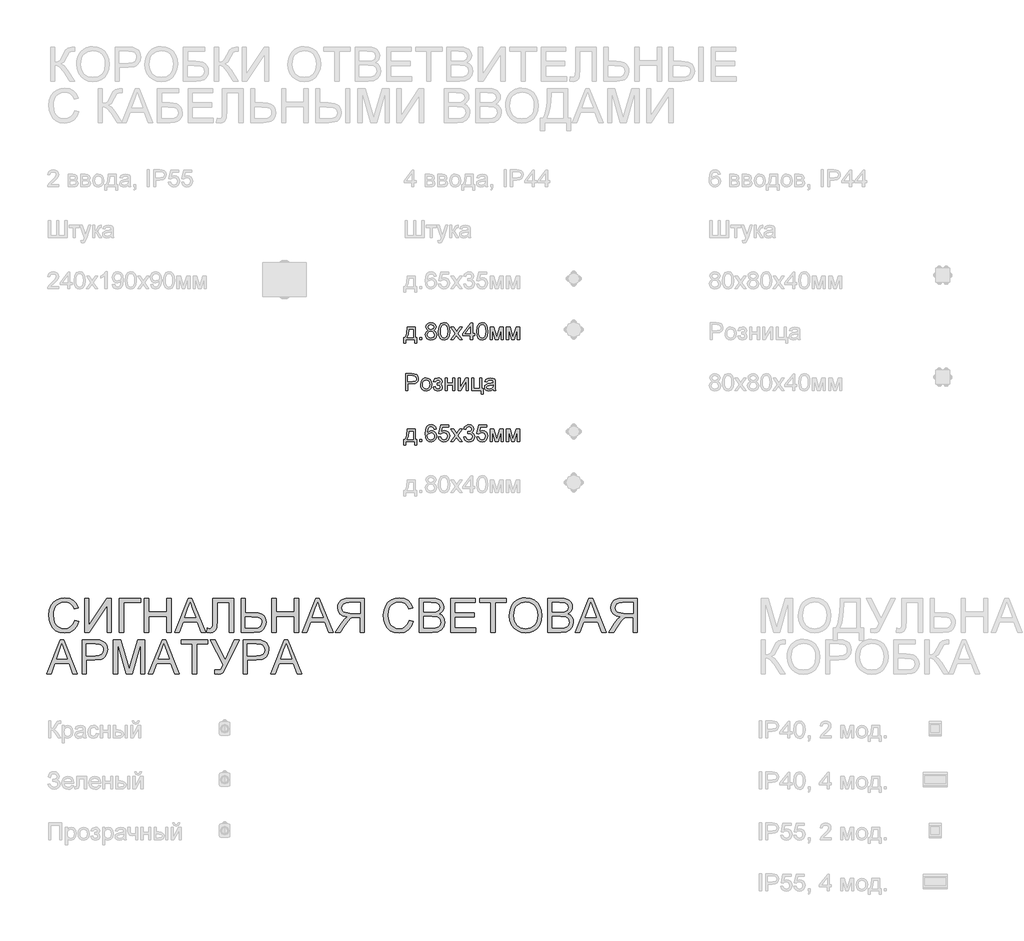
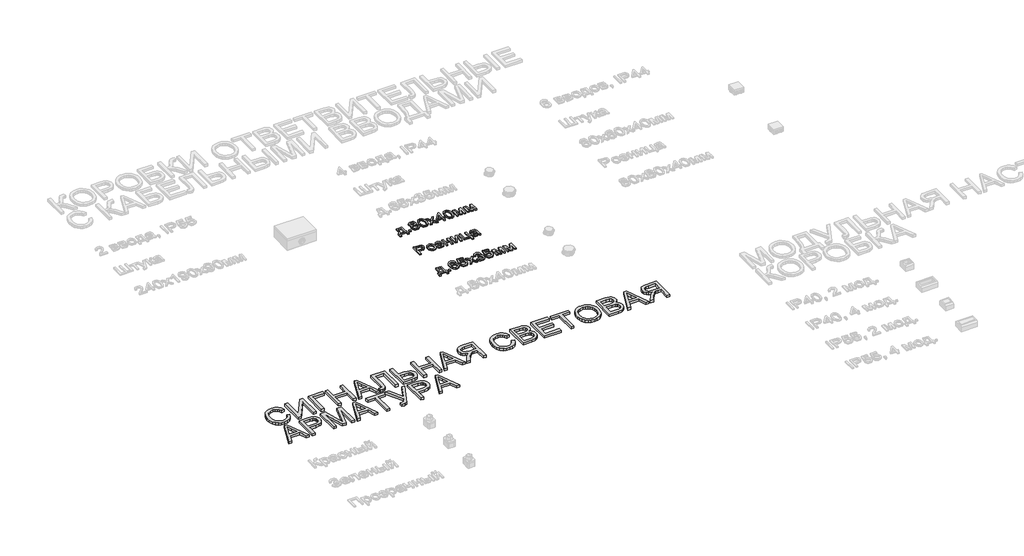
# One storey, part 10 of 98: 4 proxies.
"""IFC4 building model written with IfcOpenShell, lengths in millimetres."""

from ifc_helpers import new_model, si_unit, origin, origin_with_axes, place, context, project, spatial, polyline, outline, extrude, element, save

model = new_model("IFC4")

# Units and contexts
model_context = context("Model", 3, world=origin())
ifc_project = project(units=[si_unit("LENGTHUNIT", "METRE", prefix="MILLI")], contexts=[model_context])

# Site, building, storey
site = spatial("IfcSite", under=ifc_project)
building = spatial("IfcBuilding", under=site)
storey = spatial("IfcBuildingStorey", under=building, Name="Этаж 01", Elevation=0.0)

# Proxies
placement = place(None, origin())
element("IfcBuildingElementProxy", 1, Name="100", ObjectType="100", at=placement, inside=storey, context=model_context, shape_type="SweptSolid", body=[
    extrude(outline(polyline([(2073.0141865, -45985.7395637), (2120.1030819, -45985.7395637), (2120.1030819, -46046.9551277), (2129.520861, -46046.9551277), (2129.520861, -46079.9173545), (2116.9638222, -46079.9173545), (2116.9638222, -46059.5121665), (2065.1660373, -46059.5121665), (2065.1660373, -46079.9173545), (2052.6089985, -46079.9173545), (2052.6089985, -46046.9551277), (2060.4571478, -46046.9551277), (2070.1569697, -46023.0060098), (2073.0141865, -45985.7395637)]), holes=[polyline([(2084.0015955, -45998.2966025), (2081.0585395, -46026.905559), (2074.5838164, -46046.9551277), (2107.5460431, -46046.9551277), (2107.5460431, -45998.2966025), (2084.0015955, -45998.2966025)])]), origin_with_axes(), (0.0, 0.0, 1.0), 10.0),
    extrude(outline(polyline([(2146.7867893, -46059.5121665), (2146.7867893, -46046.9551277), (2159.3438281, -46046.9551277), (2159.3438281, -46059.5121665), (2146.7867893, -46059.5121665)])), origin_with_axes(), (0.0, 0.0, 1.0), 10.0),
    extrude(outline(polyline([(2198.045014, -46004.1827144), (2186.6038839, -45996.3836161), (2182.8882758, -45984.2435102), (2184.9116267, -45974.4271923), (2190.9816796, -45966.3153943), (2200.4178528, -45960.8707408), (2212.5395646, -45959.0558563), (2224.7348527, -45960.9136604), (2234.2936532, -45966.4870726), (2240.4740707, -45974.7276293), (2242.5342099, -45984.5868668), (2238.8676527, -45996.4204043), (2227.7453537, -46004.1827144), (2241.0994701, -46014.0296891), (2245.6734696, -46030.2778106), (2243.404864, -46042.2830264), (2236.5990471, -46052.2035775), (2226.0898847, -46058.8622416), (2212.7112428, -46061.0817963), (2199.3326009, -46058.8530446), (2188.8234386, -46052.1667893), (2182.0176217, -46042.151202), (2179.7490161, -46029.934454), (2184.5069565, -46013.3061879), (2198.045014, -46004.1827144)]), holes=[polyline([(2192.3060548, -46029.4929957), (2194.4029822, -46038.9475629), (2201.8219358, -46046.02316), (2212.8093447, -46048.5247575), (2221.3564697, -46047.2095794), (2227.7698792, -46043.264045), (2233.1164308, -46029.8854031), (2227.5982009, -46016.2492438), (2221.0376387, -46012.2025419), (2212.3924118, -46010.8536412), (2203.9648484, -46012.1841478), (2197.6158183, -46016.1756674), (2192.3060548, -46029.4929957)]), polyline([(2195.4453145, -45984.6113922), (2199.8966867, -45994.4706297), (2212.8583956, -45998.2966025), (2225.5625872, -45994.4951552), (2229.9771711, -45985.175478), (2225.4154344, -45975.524707), (2212.7112428, -45971.6128951), (2199.9702631, -45975.4388678), (2195.4453145, -45984.6113922)])]), origin_with_axes(), (0.0, 0.0, 1.0), 10.0),
    extrude(outline(polyline([(2256.6608785, -46010.0933518), (2260.3519612, -45981.1900897), (2271.3148447, -45964.5250353), (2289.6231053, -45959.0558563), (2304.2893342, -45962.2932179), (2314.4183518, -45971.6251578), (2320.3044637, -45986.4875904), (2322.5853321, -46010.0933518), (2318.9310376, -46038.8739865), (2308.0049423, -46055.5758291), (2299.7735827, -46059.7053045), (2289.6231053, -46061.0817963), (2276.5755572, -46058.6905633), (2266.6672688, -46051.5168644), (2259.1624761, -46034.5268476), (2256.6608785, -46010.0933518)]), holes=[polyline([(2269.2179173, -46010.0688263), (2270.6894453, -46029.8210238), (2275.1040292, -46041.2529568), (2281.6768542, -46046.7068073), (2289.6231053, -46048.5247575), (2297.5693564, -46046.700676), (2304.1421814, -46041.2284313), (2308.5567653, -46029.7903669), (2310.0282933, -46010.0688263), (2308.6058162, -45990.7611529), (2304.3383851, -45979.2403151), (2297.7778228, -45973.5197501), (2289.4759525, -45971.6128951), (2281.6155405, -45973.2928895), (2275.3002329, -45978.3328729), (2270.7384962, -45990.5710806), (2269.2179173, -46010.0688263)])]), origin_with_axes(), (0.0, 0.0, 1.0), 10.0),
    extrude(outline(polyline([(2328.8638514, -46059.5121665), (2355.6947116, -46022.4296613), (2330.4334813, -45985.7395637), (2345.5411686, -45985.7395637), (2357.7303253, -46003.3978995), (2363.4202335, -46011.736558), (2368.3498523, -46004.9184784), (2382.2312662, -45985.7395637), (2397.3389535, -45985.7395637), (2370.8023989, -46022.4296613), (2396.3579348, -46059.5121665), (2381.2502476, -46059.5121665), (2365.8727802, -46037.2185176), (2363.0523515, -46033.1472901), (2343.9715387, -46059.5121665), (2328.8638514, -46059.5121665)])), origin_with_axes(), (0.0, 0.0, 1.0), 10.0),
    extrude(outline(polyline([(2445.0164601, -46059.5121665), (2445.0164601, -46035.9677188), (2399.4971945, -46035.9677188), (2399.4971945, -46023.41068), (2448.1557197, -45960.6254862), (2457.5734988, -45960.6254862), (2457.5734988, -46023.41068), (2470.1305376, -46023.41068), (2470.1305376, -46035.9677188), (2457.5734988, -46035.9677188), (2457.5734988, -46059.5121665), (2445.0164601, -46059.5121665)]), holes=[polyline([(2445.0164601, -46023.41068), (2445.0164601, -45984.6113922), (2414.9482383, -46023.41068), (2445.0164601, -46023.41068)])]), origin_with_axes(), (0.0, 0.0, 1.0), 10.0),
    extrude(outline(polyline([(2481.1179465, -46010.0933518), (2484.8090292, -45981.1900897), (2495.7719127, -45964.5250353), (2514.0801733, -45959.0558563), (2528.7464022, -45962.2932179), (2538.8754198, -45971.6251578), (2544.7615317, -45986.4875904), (2547.0424, -46010.0933518), (2543.3881056, -46038.8739865), (2532.4620103, -46055.5758291), (2524.2306507, -46059.7053045), (2514.0801733, -46061.0817963), (2501.0326252, -46058.6905633), (2491.1243368, -46051.5168644), (2483.6195441, -46034.5268476), (2481.1179465, -46010.0933518)]), holes=[polyline([(2493.6749853, -46010.0688263), (2495.1465133, -46029.8210238), (2499.5610972, -46041.2529568), (2506.1339222, -46046.7068073), (2514.0801733, -46048.5247575), (2522.0264244, -46046.700676), (2528.5992494, -46041.2284313), (2533.0138333, -46029.7903669), (2534.4853613, -46010.0688263), (2533.0628842, -45990.7611529), (2528.7954531, -45979.2403151), (2522.2348908, -45973.5197501), (2513.9330205, -45971.6128951), (2506.0726085, -45973.2928895), (2499.7573009, -45978.3328729), (2495.1955642, -45990.5710806), (2493.6749853, -46010.0688263)])]), origin_with_axes(), (0.0, 0.0, 1.0), 10.0),
    extrude(outline(polyline([(2561.1690687, -45985.7395637), (2582.7760045, -45985.7395637), (2599.4287962, -46044.7968867), (2617.3814375, -45985.7395637), (2638.0809311, -45985.7395637), (2638.0809311, -46059.5121665), (2625.5238924, -46059.5121665), (2625.5238924, -46000.111487), (2607.4731491, -46059.5121665), (2590.9920357, -46059.5121665), (2573.7261074, -45997.2665329), (2573.7261074, -46059.5121665), (2561.1690687, -46059.5121665), (2561.1690687, -45985.7395637)])), origin_with_axes(), (0.0, 0.0, 1.0), 10.0),
    extrude(outline(polyline([(2656.9164893, -45985.7395637), (2678.5234251, -45985.7395637), (2695.1762168, -46044.7968867), (2713.1288581, -45985.7395637), (2733.8283517, -45985.7395637), (2733.8283517, -46059.5121665), (2721.271313, -46059.5121665), (2721.271313, -46000.111487), (2703.2205697, -46059.5121665), (2686.7394563, -46059.5121665), (2669.473528, -45997.2665329), (2669.473528, -46059.5121665), (2656.9164893, -46059.5121665), (2656.9164893, -45985.7395637)])), origin_with_axes(), (0.0, 0.0, 1.0), 10.0),
])
element("IfcBuildingElementProxy", 2, Name="100", ObjectType="100", at=placement, inside=storey, context=model_context, shape_type="SweptSolid", body=[
    extrude(outline(polyline([(2063.5964075, -46359.5121665), (2063.5964075, -46259.0558563), (2100.8260654, -46259.0558563), (2115.8356508, -46260.0123495), (2128.0370703, -46264.7089763), (2135.9465332, -46274.421061), (2138.9386401, -46288.1185339), (2136.9183548, -46299.9582028), (2130.8574989, -46309.8235716), (2119.5236678, -46316.4822358), (2101.6844567, -46318.7017905), (2076.1534462, -46318.7017905), (2076.1534462, -46359.5121665), (2063.5964075, -46359.5121665)]), holes=[polyline([(2076.1534462, -46306.1447517), (2102.4202207, -46306.1447517), (2120.9124223, -46301.533964), (2125.0143065, -46295.9850773), (2126.3816013, -46288.5599923), (2123.1565025, -46278.1611946), (2114.6829538, -46272.4712864), (2102.1259151, -46271.6128951), (2076.1534462, -46271.6128951), (2076.1534462, -46306.1447517)])]), origin_with_axes(), (0.0, 0.0, 1.0), 10.0),
    extrude(outline(polyline([(2151.4956788, -46322.6258651), (2154.2118742, -46304.8387706), (2162.3604604, -46292.3369141), (2172.4281644, -46286.2116789), (2184.4824311, -46284.1699338), (2197.6740663, -46286.656203), (2208.2108198, -46294.1150104), (2215.1178042, -46305.957745), (2217.4201324, -46321.5957955), (2213.348905, -46343.9384953), (2201.490842, -46356.5813732), (2184.4824311, -46361.0817963), (2171.1313803, -46358.6047242), (2160.6068896, -46351.1735079), (2153.7734815, -46339.082453), (2151.4956788, -46322.6258651)]), holes=[polyline([(2164.0527176, -46322.6013396), (2165.5058515, -46333.9658276), (2169.8652531, -46342.0622972), (2176.4258154, -46346.9091424), (2184.4824311, -46348.5247575), (2192.5022586, -46346.8999454), (2199.0505581, -46342.025509), (2203.4099597, -46333.8217405), (2204.8630936, -46322.2089321), (2203.4007627, -46311.175538), (2199.0137699, -46303.189433), (2192.4562733, -46298.3425877), (2184.4824311, -46296.7269726), (2176.4258154, -46298.3364563), (2169.8652531, -46303.1649075), (2165.5058515, -46311.242983), (2164.0527176, -46322.6013396)])]), origin_with_axes(), (0.0, 0.0, 1.0), 10.0),
    extrude(outline(polyline([(2248.8127293, -46326.5499397), (2248.8127293, -46313.9929009), (2258.7210177, -46313.5023916), (2263.7242128, -46310.8904294), (2266.0786576, -46305.4335132), (2262.9271352, -46299.0936801), (2254.7969431, -46296.7269726), (2246.3969709, -46299.0814174), (2240.9645801, -46306.1447517), (2226.8379114, -46304.5751218), (2236.280216, -46289.2712308), (2253.5216188, -46284.1699338), (2264.0185184, -46285.7242353), (2271.9647695, -46290.3871396), (2276.9679647, -46297.2082849), (2278.6356964, -46305.2373094), (2276.2628575, -46313.0364077), (2269.1443409, -46319.0696725), (2277.4462112, -46326.8932962), (2280.2053262, -46338.1504853), (2278.4548211, -46347.3935204), (2273.2033056, -46354.7174378), (2264.806399, -46359.4907067), (2253.6197207, -46361.0817963), (2242.678297, -46359.6102683), (2234.3059159, -46355.1956844), (2228.5025775, -46347.8380445), (2225.2682816, -46337.5373486), (2239.3949502, -46335.9677188), (2245.0603329, -46345.238345), (2254.8214685, -46348.5247575), (2263.993993, -46345.3732351), (2267.6482874, -46337.3166194), (2265.3796818, -46330.719269), (2260.5481649, -46327.1876018), (2251.2652759, -46326.4763633), (2248.8127293, -46326.5499397)])), origin_with_axes(), (0.0, 0.0, 1.0), 10.0),
    extrude(outline(polyline([(2295.9016247, -46285.7395637), (2308.4586634, -46285.7395637), (2308.4586634, -46313.9929009), (2341.4208902, -46313.9929009), (2341.4208902, -46285.7395637), (2353.977929, -46285.7395637), (2353.977929, -46359.5121665), (2341.4208902, -46359.5121665), (2341.4208902, -46326.5499397), (2308.4586634, -46326.5499397), (2308.4586634, -46359.5121665), (2295.9016247, -46359.5121665), (2295.9016247, -46285.7395637)])), origin_with_axes(), (0.0, 0.0, 1.0), 10.0),
    extrude(outline(polyline([(2372.8134871, -46285.7395637), (2385.3705259, -46285.7395637), (2385.3705259, -46342.0009835), (2416.2235626, -46285.7395637), (2432.4594213, -46285.7395637), (2432.4594213, -46359.5121665), (2419.9023825, -46359.5121665), (2419.9023825, -46303.5941032), (2389.2455496, -46359.5121665), (2372.8134871, -46359.5121665), (2372.8134871, -46285.7395637)])), origin_with_axes(), (0.0, 0.0, 1.0), 10.0),
    extrude(outline(polyline([(2451.2949794, -46285.7395637), (2463.8520182, -46285.7395637), (2463.8520182, -46346.9551277), (2499.9535047, -46346.9551277), (2499.9535047, -46285.7395637), (2512.5105434, -46285.7395637), (2512.5105434, -46346.9551277), (2520.3586927, -46346.9551277), (2520.3586927, -46379.9173545), (2507.8016539, -46379.9173545), (2507.8016539, -46359.5121665), (2451.2949794, -46359.5121665), (2451.2949794, -46285.7395637)])), origin_with_axes(), (0.0, 0.0, 1.0), 10.0),
    extrude(outline(polyline([(2578.434997, -46350.0943874), (2566.2581029, -46358.6047242), (2552.8058846, -46361.0817963), (2542.3120507, -46359.5918742), (2534.5712004, -46355.122108), (2529.7979315, -46348.3346852), (2528.2068419, -46339.8917934), (2530.6103376, -46329.9589795), (2536.9256452, -46322.7484924), (2545.7180249, -46318.6282141), (2556.5828065, -46316.7397532), (2578.3614206, -46312.4232711), (2578.434997, -46309.6273679), (2574.9769062, -46300.3567416), (2561.0954923, -46296.7269726), (2548.3913007, -46299.142731), (2542.3335105, -46307.7143815), (2529.7764717, -46306.1447517), (2535.2088625, -46293.8820185), (2546.1472205, -46286.6960569), (2562.714173, -46284.1699338), (2577.9322249, -46286.4017513), (2586.5284009, -46292.0058203), (2590.3788991, -46300.5284199), (2590.9920357, -46311.5158288), (2590.9920357, -46327.1385509), (2591.6296979, -46348.9539532), (2594.1312954, -46359.5121665), (2581.5742567, -46359.5121665), (2578.434997, -46350.0943874)]), holes=[polyline([(2578.434997, -46324.9803098), (2558.1769618, -46328.8308081), (2547.3734938, -46330.8664218), (2542.4806633, -46334.1773597), (2540.7638807, -46339.0088766), (2544.5040143, -46345.8024308), (2555.4791605, -46348.5247575), (2568.183352, -46345.5203879), (2576.3748578, -46338.2485871), (2578.3614206, -46328.5365025), (2578.434997, -46324.9803098)])]), origin_with_axes(), (0.0, 0.0, 1.0), 10.0),
])
element("IfcBuildingElementProxy", 3, Name="100", ObjectType="100", at=placement, inside=storey, context=model_context, shape_type="SweptSolid", body=[
    extrude(outline(polyline([(2073.0141865, -46585.7395637), (2120.1030819, -46585.7395637), (2120.1030819, -46646.9551277), (2129.520861, -46646.9551277), (2129.520861, -46679.9173545), (2116.9638222, -46679.9173545), (2116.9638222, -46659.5121665), (2065.1660373, -46659.5121665), (2065.1660373, -46679.9173545), (2052.6089985, -46679.9173545), (2052.6089985, -46646.9551277), (2060.4571478, -46646.9551277), (2070.1569697, -46623.0060098), (2073.0141865, -46585.7395637)]), holes=[polyline([(2084.0015955, -46598.2966025), (2081.0585395, -46626.905559), (2074.5838164, -46646.9551277), (2107.5460431, -46646.9551277), (2107.5460431, -46598.2966025), (2084.0015955, -46598.2966025)])]), origin_with_axes(), (0.0, 0.0, 1.0), 10.0),
    extrude(outline(polyline([(2146.7867893, -46659.5121665), (2146.7867893, -46646.9551277), (2159.3438281, -46646.9551277), (2159.3438281, -46659.5121665), (2146.7867893, -46659.5121665)])), origin_with_axes(), (0.0, 0.0, 1.0), 10.0),
    extrude(outline(polyline([(2244.1038398, -46585.7395637), (2231.546801, -46587.3091935), (2226.7888605, -46576.8368194), (2214.2072963, -46571.6128951), (2202.8765308, -46574.6540529), (2194.3048803, -46586.0706575), (2190.736425, -46608.4501455), (2201.809673, -46598.4314925), (2215.5316715, -46595.1573428), (2227.132217, -46597.3952916), (2236.8688272, -46604.109138), (2243.472309, -46614.3669143), (2245.6734696, -46627.2366527), (2241.5286658, -46644.5638947), (2230.1243239, -46656.8266279), (2213.667736, -46661.0817963), (2199.4215058, -46658.2613677), (2188.0754119, -46649.8000818), (2180.6533926, -46634.8640728), (2178.1793862, -46612.6194748), (2180.9262384, -46587.6096305), (2189.1667951, -46570.5092491), (2200.4178528, -46561.9192045), (2214.9921112, -46559.0558563), (2226.010177, -46560.8278213), (2234.8332135, -46566.1437161), (2241.013631, -46574.5866079), (2244.1038398, -46585.7395637)]), holes=[polyline([(2190.736425, -46627.040449), (2193.6426927, -46637.9174933), (2201.3682146, -46645.8146935), (2212.6867174, -46648.5247575), (2220.9732593, -46647.1206746), (2227.4878363, -46642.9084257), (2231.7092822, -46636.2865498), (2233.1164308, -46627.6535857), (2231.7276763, -46619.3670437), (2227.5614127, -46613.0486705), (2220.9364711, -46609.0479538), (2212.1716826, -46607.7143815), (2196.9781562, -46613.0486705), (2192.2968578, -46619.2137596), (2190.736425, -46627.040449)])]), origin_with_axes(), (0.0, 0.0, 1.0), 10.0),
    extrude(outline(polyline([(2256.6608785, -46632.8284591), (2269.2179173, -46631.2588292), (2275.5454876, -46644.1960127), (2288.6666121, -46648.5247575), (2297.6674583, -46647.019507), (2304.4119615, -46642.5037555), (2308.6242103, -46635.4986692), (2310.0282933, -46626.5254142), (2304.7675808, -46611.6139307), (2298.1610333, -46607.5120464), (2288.8628158, -46606.1447517), (2277.8386187, -46608.3275182), (2270.7875471, -46613.9929009), (2258.2305084, -46612.4232711), (2269.2179173, -46560.6254862), (2317.8764425, -46560.6254862), (2317.8764425, -46573.1825249), (2279.3714604, -46573.1825249), (2274.0003832, -46600.847251), (2282.9705725, -46595.4025974), (2292.3699575, -46593.5877129), (2304.1023275, -46595.8379245), (2313.8420033, -46602.5885591), (2320.3994999, -46612.8769922), (2322.5853321, -46625.7405993), (2320.6171634, -46638.2976381), (2314.7126574, -46649.0397923), (2303.4064174, -46658.0712953), (2288.6175612, -46661.0817963), (2276.2843173, -46659.1473501), (2266.4588023, -46653.3440117), (2259.7234961, -46644.3462312), (2256.6608785, -46632.8284591)])), origin_with_axes(), (0.0, 0.0, 1.0), 10.0),
    extrude(outline(polyline([(2328.8638514, -46659.5121665), (2355.6947116, -46622.4296613), (2330.4334813, -46585.7395637), (2345.5411686, -46585.7395637), (2357.7303253, -46603.3978995), (2363.4202335, -46611.736558), (2368.3498523, -46604.9184784), (2382.2312662, -46585.7395637), (2397.3389535, -46585.7395637), (2370.8023989, -46622.4296613), (2396.3579348, -46659.5121665), (2381.2502476, -46659.5121665), (2365.8727802, -46637.2185176), (2363.0523515, -46633.1472901), (2343.9715387, -46659.5121665), (2328.8638514, -46659.5121665)])), origin_with_axes(), (0.0, 0.0, 1.0), 10.0),
    extrude(outline(polyline([(2404.2060841, -46632.8284591), (2416.7631228, -46631.2588292), (2423.6915671, -46644.4780556), (2436.653276, -46648.5247575), (2445.2617147, -46647.1329373), (2451.9081161, -46642.9574767), (2457.5734988, -46629.1741646), (2451.957167, -46616.1879302), (2437.6833456, -46611.049845), (2428.8787032, -46612.4232711), (2430.2766548, -46599.8662323), (2432.287743, -46600.0133851), (2446.537039, -46596.4081416), (2451.2827167, -46591.8341421), (2452.8646093, -46585.3226308), (2448.2783471, -46575.5001815), (2436.4570723, -46571.6128951), (2424.4886447, -46575.5369697), (2418.3327527, -46587.3091935), (2405.7757139, -46585.7395637), (2409.472928, -46574.4639805), (2416.0518843, -46566.0456142), (2425.0527304, -46560.8032958), (2436.0156139, -46559.0558563), (2451.1600894, -46562.5016843), (2461.7550908, -46571.9194634), (2465.4216481, -46584.5868668), (2461.9390318, -46596.1628869), (2451.638336, -46604.47702), (2465.3235462, -46613.0609332), (2470.1305376, -46629.3948938), (2467.7270419, -46641.6331015), (2460.5165548, -46651.860221), (2449.6333791, -46658.7764025), (2436.2118176, -46661.0817963), (2424.0717118, -46659.1136276), (2414.1879489, -46653.2091216), (2407.3146869, -46644.1776186), (2404.2060841, -46632.8284591)])), origin_with_axes(), (0.0, 0.0, 1.0), 10.0),
    extrude(outline(polyline([(2481.1179465, -46632.8284591), (2493.6749853, -46631.2588292), (2500.0025556, -46644.1960127), (2513.1236801, -46648.5247575), (2522.1245262, -46647.019507), (2528.8690295, -46642.5037555), (2533.0812783, -46635.4986692), (2534.4853613, -46626.5254142), (2529.2246487, -46611.6139307), (2522.6181013, -46607.5120464), (2513.3198838, -46606.1447517), (2502.2956867, -46608.3275182), (2495.2446151, -46613.9929009), (2482.6875764, -46612.4232711), (2493.6749853, -46560.6254862), (2542.3335105, -46560.6254862), (2542.3335105, -46573.1825249), (2503.8285283, -46573.1825249), (2498.4574512, -46600.847251), (2507.4276405, -46595.4025974), (2516.8270255, -46593.5877129), (2528.5593955, -46595.8379245), (2538.2990713, -46602.5885591), (2544.8565679, -46612.8769922), (2547.0424, -46625.7405993), (2545.0742314, -46638.2976381), (2539.1697254, -46649.0397923), (2527.8634854, -46658.0712953), (2513.0746292, -46661.0817963), (2500.7413853, -46659.1473501), (2490.9158703, -46653.3440117), (2484.1805641, -46644.3462312), (2481.1179465, -46632.8284591)])), origin_with_axes(), (0.0, 0.0, 1.0), 10.0),
    extrude(outline(polyline([(2561.1690687, -46585.7395637), (2582.7760045, -46585.7395637), (2599.4287962, -46644.7968867), (2617.3814375, -46585.7395637), (2638.0809311, -46585.7395637), (2638.0809311, -46659.5121665), (2625.5238924, -46659.5121665), (2625.5238924, -46600.111487), (2607.4731491, -46659.5121665), (2590.9920357, -46659.5121665), (2573.7261074, -46597.2665329), (2573.7261074, -46659.5121665), (2561.1690687, -46659.5121665), (2561.1690687, -46585.7395637)])), origin_with_axes(), (0.0, 0.0, 1.0), 10.0),
    extrude(outline(polyline([(2656.9164893, -46585.7395637), (2678.5234251, -46585.7395637), (2695.1762168, -46644.7968867), (2713.1288581, -46585.7395637), (2733.8283517, -46585.7395637), (2733.8283517, -46659.5121665), (2721.271313, -46659.5121665), (2721.271313, -46600.111487), (2703.2205697, -46659.5121665), (2686.7394563, -46659.5121665), (2669.473528, -46597.2665329), (2669.473528, -46659.5121665), (2656.9164893, -46659.5121665), (2656.9164893, -46585.7395637)])), origin_with_axes(), (0.0, 0.0, 1.0), 10.0),
])
element("IfcBuildingElementProxy", 4, Name="200", ObjectType="200", at=placement, inside=storey, context=model_context, shape_type="SweptSolid", body=[
    extrude(outline(polyline([(115.8505025, -47710.8294414), (140.9645801, -47717.3041646), (129.3762972, -47746.5691773), (111.1906639, -47767.9492526), (87.3028597, -47781.0274575), (58.6080641, -47785.3868591), (29.4779414, -47782.0881839), (6.3442953, -47772.1921582), (-11.3876169, -47756.0421386), (-24.3125376, -47733.9814817), (-32.2036064, -47708.045801), (-34.8339627, -47680.2707104), (-31.8602499, -47650.9750408), (-22.9391115, -47625.6770223), (-8.5365314, -47605.1798638), (10.8815066, -47590.2867744), (33.9109195, -47581.2184832), (59.1476243, -47578.1957194), (86.6835917, -47582.1075313), (109.4493558, -47593.842967), (126.7336782, -47612.6785251), (137.8253204, -47637.8907045), (112.7112428, -47643.8749183), (104.0047023, -47625.5605263), (92.1098511, -47612.9973562), (76.8795365, -47605.7316868), (58.1666057, -47603.309797), (36.596458, -47605.9953355), (18.8768086, -47614.0519512), (5.4307217, -47626.6335155), (-3.3187384, -47642.8938997), (-8.1195985, -47661.2757367), (-9.7198852, -47680.2216594), (-7.8252929, -47703.4227506), (-2.1415161, -47723.4845821), (7.5460431, -47739.640733), (21.4519826, -47751.1247826), (38.1231683, -47757.9857819), (56.1064665, -47760.2727816), (77.0696089, -47757.1580474), (94.5378723, -47747.8138447), (107.7264418, -47732.3382754), (115.8505025, -47710.8294414)])), origin_with_axes(), (0.0, 0.0, 1.0), 20.0),
    extrude(outline(polyline([(175.4964367, -47581.3349791), (200.6105142, -47581.3349791), (200.6105142, -47740.4562048), (305.7757139, -47581.3349791), (332.4594213, -47581.3349791), (332.4594213, -47782.2475994), (307.3453437, -47782.2475994), (307.3453437, -47623.5678322), (202.4253987, -47782.2475994), (175.4964367, -47782.2475994), (175.4964367, -47581.3349791)])), origin_with_axes(), (0.0, 0.0, 1.0), 20.0),
    extrude(outline(polyline([(379.5483167, -47581.3349791), (505.1187044, -47581.3349791), (505.1187044, -47606.4490567), (404.6623942, -47606.4490567), (404.6623942, -47782.2475994), (379.5483167, -47782.2475994), (379.5483167, -47581.3349791)])), origin_with_axes(), (0.0, 0.0, 1.0), 20.0),
    extrude(outline(polyline([(527.0935222, -47782.2475994), (527.0935222, -47581.3349791), (552.2075997, -47581.3349791), (552.2075997, -47662.9557311), (658.9424293, -47662.9557311), (658.9424293, -47581.3349791), (684.0565068, -47581.3349791), (684.0565068, -47782.2475994), (658.9424293, -47782.2475994), (658.9424293, -47688.0698087), (552.2075997, -47688.0698087), (552.2075997, -47782.2475994), (527.0935222, -47782.2475994)])), origin_with_axes(), (0.0, 0.0, 1.0), 20.0),
    extrude(outline(polyline([(704.6088476, -47782.2475994), (784.8071226, -47581.3349791), (806.1933292, -47581.3349791), (886.3916042, -47782.2475994), (859.8550496, -47782.2475994), (836.8501621, -47719.4624056), (754.1012387, -47719.4624056), (731.1454022, -47782.2475994), (704.6088476, -47782.2475994)]), holes=[polyline([(763.322814, -47694.3483281), (827.6776377, -47694.3483281), (809.5778436, -47644.9540388), (795.5002259, -47606.4490567), (782.992238, -47640.6375568), (763.322814, -47694.3483281)])]), origin_with_axes(), (0.0, 0.0, 1.0), 20.0),
    extrude(outline(polyline([(928.9187628, -47581.3349791), (1051.3498908, -47581.3349791), (1051.3498908, -47782.2475994), (1026.2358133, -47782.2475994), (1026.2358133, -47606.4490567), (954.0328403, -47606.4490567), (954.0328403, -47708.965506), (951.1143098, -47754.7055007), (946.5954927, -47767.6304215), (938.8761021, -47777.3179807), (928.3056261, -47783.3696395), (915.2335526, -47785.3868591), (894.3869062, -47782.2475994), (897.5261659, -47757.1335219), (909.5436444, -47760.2727816), (918.0355871, -47758.5866558), (924.0872459, -47753.5282783), (927.7108836, -47742.215907), (928.9187628, -47721.7677994), (928.9187628, -47581.3349791)])), origin_with_axes(), (0.0, 0.0, 1.0), 20.0),
    extrude(outline(polyline([(1095.2995265, -47581.3349791), (1120.413604, -47581.3349791), (1120.413604, -47666.0949908), (1167.4534485, -47666.0949908), (1195.8355444, -47668.0631595), (1215.1554805, -47673.9676655), (1227.8596721, -47683.2628173), (1236.3945344, -47695.4029231), (1241.2321826, -47709.1678411), (1242.844732, -47723.3374293), (1238.9697083, -47745.3858235), (1227.3446373, -47764.5402127), (1217.9268582, -47772.2871944), (1205.1736157, -47777.8207528), (1169.6607404, -47782.2475994), (1095.2995265, -47782.2475994), (1095.2995265, -47581.3349791)]), holes=[polyline([(1120.413604, -47757.1335219), (1169.6116895, -47757.1335219), (1194.3578851, -47754.6503184), (1208.6562319, -47747.200708), (1215.4620488, -47736.2439559), (1217.7306545, -47723.2393274), (1216.0874482, -47712.7056396), (1211.1578295, -47703.864209), (1203.4874899, -47697.2852527), (1193.6221211, -47693.5389877), (1156.4660395, -47691.2090684), (1120.413604, -47691.2090684), (1120.413604, -47757.1335219)])]), origin_with_axes(), (0.0, 0.0, 1.0), 20.0),
    extrude(outline(polyline([(1277.3765886, -47782.2475994), (1277.3765886, -47581.3349791), (1302.4906662, -47581.3349791), (1302.4906662, -47662.9557311), (1409.2254957, -47662.9557311), (1409.2254957, -47581.3349791), (1434.3395732, -47581.3349791), (1434.3395732, -47782.2475994), (1409.2254957, -47782.2475994), (1409.2254957, -47688.0698087), (1302.4906662, -47688.0698087), (1302.4906662, -47782.2475994), (1277.3765886, -47782.2475994)])), origin_with_axes(), (0.0, 0.0, 1.0), 20.0),
    extrude(outline(polyline([(1454.891914, -47782.2475994), (1535.090189, -47581.3349791), (1556.4763956, -47581.3349791), (1636.6746706, -47782.2475994), (1610.138116, -47782.2475994), (1587.1332286, -47719.4624056), (1504.3843051, -47719.4624056), (1481.4284686, -47782.2475994), (1454.891914, -47782.2475994)]), holes=[polyline([(1513.6058805, -47694.3483281), (1577.9607042, -47694.3483281), (1559.86091, -47644.9540388), (1545.7832923, -47606.4490567), (1533.2753045, -47640.6375568), (1513.6058805, -47694.3483281)])]), origin_with_axes(), (0.0, 0.0, 1.0), 20.0),
    extrude(outline(polyline([(1820.4685154, -47782.2475994), (1795.3544378, -47782.2475994), (1795.3544378, -47694.3483281), (1765.0409614, -47694.3483281), (1750.4728344, -47695.2312448), (1738.5289323, -47700.0137108), (1725.260655, -47713.0367334), (1706.3760459, -47740.6033576), (1680.2318988, -47782.2475994), (1651.0465939, -47782.2475994), (1684.5483809, -47727.8010642), (1704.904518, -47701.9512226), (1719.1783394, -47691.2090684), (1694.4382752, -47684.5504043), (1677.1171646, -47672.520663), (1666.9084392, -47656.113126), (1663.5055308, -47636.3210747), (1665.5595386, -47620.4101784), (1671.721562, -47605.9340219), (1681.3232821, -47594.2598999), (1693.6963798, -47586.7551072), (1710.625083, -47582.6900112), (1733.8936192, -47581.3349791), (1820.4685154, -47581.3349791), (1820.4685154, -47782.2475994)]), holes=[polyline([(1795.3544378, -47669.2342505), (1795.3544378, -47606.4490567), (1732.8144987, -47606.4490567), (1712.9427396, -47608.6195604), (1699.2391352, -47615.1310718), (1691.27449, -47625.002572), (1688.6196083, -47637.2530424), (1694.1868892, -47654.2982415), (1701.041757, -47661.0550075), (1710.4717988, -47665.6780579), (1739.142069, -47669.2342505), (1795.3544378, -47669.2342505)])]), origin_with_axes(), (0.0, 0.0, 1.0), 20.0),
    extrude(outline(polyline([(2084.1663295, -47710.8294414), (2109.2804071, -47717.3041646), (2097.6921242, -47746.5691773), (2079.5064909, -47767.9492526), (2055.6186867, -47781.0274575), (2026.9238911, -47785.3868591), (1997.7937684, -47782.0881839), (1974.6601223, -47772.1921582), (1956.9282101, -47756.0421386), (1944.0032894, -47733.9814817), (1936.1122206, -47708.045801), (1933.4818643, -47680.2707104), (1936.4555771, -47650.9750408), (1945.3767155, -47625.6770223), (1959.7792956, -47605.1798638), (1979.1973336, -47590.2867744), (2002.2267465, -47581.2184832), (2027.4634513, -47578.1957194), (2054.9994187, -47582.1075313), (2077.7651828, -47593.842967), (2095.0495052, -47612.6785251), (2106.1411474, -47637.8907045), (2081.0270698, -47643.8749183), (2072.3205293, -47625.5605263), (2060.4256781, -47612.9973562), (2045.1953635, -47605.7316868), (2026.4824327, -47603.309797), (2004.912285, -47605.9953355), (1987.1926356, -47614.0519512), (1973.7465487, -47626.6335155), (1964.9970885, -47642.8938997), (1960.1962285, -47661.2757367), (1958.5959418, -47680.2216594), (1960.4905341, -47703.4227506), (1966.1743109, -47723.4845821), (1975.8618701, -47739.640733), (1989.7678096, -47751.1247826), (2006.4389953, -47757.9857819), (2024.4222935, -47760.2727816), (2045.3854359, -47757.1580474), (2062.8536993, -47747.8138447), (2076.0422688, -47732.3382754), (2084.1663295, -47710.8294414)])), origin_with_axes(), (0.0, 0.0, 1.0), 20.0),
    extrude(outline(polyline([(2143.8122637, -47782.2475994), (2143.8122637, -47581.3349791), (2220.4788715, -47581.3349791), (2241.5646412, -47582.8126385), (2258.0273604, -47587.2456165), (2270.6457129, -47594.7442779), (2280.198382, -47605.4189871), (2286.2132526, -47617.9760259), (2288.2182095, -47631.1216758), (2286.5320837, -47643.2188621), (2281.4737063, -47654.5925471), (2273.006289, -47664.5437551), (2261.0930437, -47672.3735102), (2275.3239456, -47679.8047265), (2285.8392393, -47691.1109665), (2292.3323565, -47705.5442034), (2294.4967289, -47722.3564106), (2288.5860915, -47749.3589491), (2273.9443881, -47768.5869147), (2252.0921976, -47778.7895087), (2219.8902603, -47782.2475994), (2143.8122637, -47782.2475994)]), holes=[polyline([(2168.9263412, -47662.9557311), (2214.7889633, -47662.9557311), (2241.5707725, -47660.7974901), (2257.6840039, -47651.5023384), (2263.104132, -47635.1438523), (2258.0518859, -47618.7608408), (2243.5818608, -47609.0732816), (2211.3063471, -47606.4490567), (2168.9263412, -47606.4490567), (2168.9263412, -47662.9557311)]), polyline([(2168.9263412, -47757.1335219), (2220.4298205, -47757.1335219), (2239.069175, -47756.1525032), (2254.8390498, -47750.6833243), (2265.2868985, -47739.5242371), (2269.3826514, -47722.6016653), (2264.57566, -47703.0793941), (2258.2787465, -47696.0221911), (2249.0019888, -47691.4297976), (2217.9772739, -47688.0698087), (2168.9263412, -47688.0698087), (2168.9263412, -47757.1335219)])]), origin_with_axes(), (0.0, 0.0, 1.0), 20.0),
    extrude(outline(polyline([(2329.0285855, -47782.2475994), (2329.0285855, -47581.3349791), (2473.4345313, -47581.3349791), (2473.4345313, -47606.4490567), (2354.142663, -47606.4490567), (2354.142663, -47666.0949908), (2467.156012, -47666.0949908), (2467.156012, -47691.2090684), (2354.142663, -47691.2090684), (2354.142663, -47757.1335219), (2476.573791, -47757.1335219), (2476.573791, -47782.2475994), (2329.0285855, -47782.2475994)])), origin_with_axes(), (0.0, 0.0, 1.0), 20.0),
    extrude(outline(polyline([(2564.4730624, -47782.2475994), (2564.4730624, -47606.4490567), (2498.5486089, -47606.4490567), (2498.5486089, -47581.3349791), (2655.5115935, -47581.3349791), (2655.5115935, -47606.4490567), (2589.58714, -47606.4490567), (2589.58714, -47782.2475994), (2564.4730624, -47782.2475994)])), origin_with_axes(), (0.0, 0.0, 1.0), 20.0),
    extrude(outline(polyline([(2674.3471516, -47684.4400397), (2676.0210147, -47660.8741322), (2681.042604, -47640.0121574), (2689.4119193, -47621.8541152), (2701.1289609, -47606.4000057), (2715.4916871, -47594.0606305), (2731.7980566, -47585.246791), (2750.0480692, -47579.9584873), (2770.2417251, -47578.1957194), (2796.5943386, -47581.5066574), (2820.2246255, -47591.4394713), (2839.8449985, -47607.2951853), (2854.1678709, -47628.3748236), (2862.9234624, -47653.6605794), (2865.8419929, -47682.1346458), (2862.7701782, -47710.988857), (2853.5547342, -47736.630232), (2838.7045644, -47757.7466586), (2818.728572, -47773.0260241), (2795.3006203, -47782.2966504), (2770.0945723, -47785.3868591), (2743.3372885, -47781.9716879), (2719.5721116, -47771.7261744), (2700.0007894, -47755.5761548), (2685.8250699, -47734.4474655), (2677.2166312, -47710.136597), (2674.3471516, -47684.4400397)]), holes=[polyline([(2699.4612292, -47684.6852943), (2704.4828184, -47716.1146794), (2719.5475861, -47740.0637973), (2742.1907229, -47755.2205355), (2769.9474195, -47760.2727816), (2798.1087862, -47755.1714846), (2820.7887112, -47739.8675936), (2829.512113, -47728.5950761), (2835.7431143, -47715.1827117), (2840.7279153, -47681.9384421), (2838.5941998, -47659.7061068), (2832.193053, -47640.490404), (2821.6900221, -47624.7757114), (2807.2506538, -47613.0464071), (2789.8314413, -47605.7439495), (2770.3888779, -47603.309797), (2743.3740767, -47608.0002924), (2720.4059774, -47622.0717787), (2711.2426501, -47633.0208666), (2704.6974162, -47647.1061485), (2699.4612292, -47684.6852943)])]), origin_with_axes(), (0.0, 0.0, 1.0), 20.0),
    extrude(outline(polyline([(2900.3738495, -47782.2475994), (2900.3738495, -47581.3349791), (2977.0404573, -47581.3349791), (2998.126227, -47582.8126385), (3014.5889463, -47587.2456165), (3027.2072987, -47594.7442779), (3036.7599678, -47605.4189871), (3042.7748384, -47617.9760259), (3044.7797953, -47631.1216758), (3043.0936695, -47643.2188621), (3038.0352921, -47654.5925471), (3029.5678748, -47664.5437551), (3017.6546295, -47672.3735102), (3031.8855314, -47679.8047265), (3042.4008251, -47691.1109665), (3048.8939423, -47705.5442034), (3051.0583147, -47722.3564106), (3045.1476773, -47749.3589491), (3030.5059739, -47768.5869147), (3008.6537834, -47778.7895087), (2976.4518461, -47782.2475994), (2900.3738495, -47782.2475994)]), holes=[polyline([(2925.487927, -47757.1335219), (2976.9914063, -47757.1335219), (2995.6307608, -47756.1525032), (3011.4006356, -47750.6833243), (3021.8484843, -47739.5242371), (3025.9442372, -47722.6016653), (3021.1372458, -47703.0793941), (3014.8403323, -47696.0221911), (3005.5635746, -47691.4297976), (2974.5388597, -47688.0698087), (2925.487927, -47688.0698087), (2925.487927, -47757.1335219)]), polyline([(2925.487927, -47662.9557311), (2971.3505491, -47662.9557311), (2998.1323583, -47660.7974901), (3014.2455897, -47651.5023384), (3019.6657178, -47635.1438523), (3014.6134717, -47618.7608408), (3000.1434466, -47609.0732816), (2967.8679329, -47606.4490567), (2925.487927, -47606.4490567), (2925.487927, -47662.9557311)])]), origin_with_axes(), (0.0, 0.0, 1.0), 20.0),
    extrude(outline(polyline([(3062.1928764, -47782.2475994), (3142.3911514, -47581.3349791), (3163.777358, -47581.3349791), (3243.975633, -47782.2475994), (3217.4390784, -47782.2475994), (3194.434191, -47719.4624056), (3111.6852675, -47719.4624056), (3088.729431, -47782.2475994), (3062.1928764, -47782.2475994)]), holes=[polyline([(3120.9068429, -47694.3483281), (3185.2616665, -47694.3483281), (3167.1618724, -47644.9540388), (3153.0842547, -47606.4490567), (3140.5762669, -47640.6375568), (3120.9068429, -47694.3483281)])]), origin_with_axes(), (0.0, 0.0, 1.0), 20.0),
    extrude(outline(polyline([(3427.7694778, -47782.2475994), (3402.6554002, -47782.2475994), (3402.6554002, -47694.3483281), (3372.3419238, -47694.3483281), (3357.7737968, -47695.2312448), (3345.8298947, -47700.0137108), (3332.5616174, -47713.0367334), (3313.6770083, -47740.6033576), (3287.5328612, -47782.2475994), (3258.3475563, -47782.2475994), (3291.8493433, -47727.8010642), (3312.2054804, -47701.9512226), (3326.4793018, -47691.2090684), (3301.7392376, -47684.5504043), (3284.418127, -47672.520663), (3274.2094016, -47656.113126), (3270.8064932, -47636.3210747), (3272.860501, -47620.4101784), (3279.0225244, -47605.9340219), (3288.6242445, -47594.2598999), (3300.9973422, -47586.7551072), (3317.9260454, -47582.6900112), (3341.1945816, -47581.3349791), (3427.7694778, -47581.3349791), (3427.7694778, -47782.2475994)]), holes=[polyline([(3402.6554002, -47669.2342505), (3402.6554002, -47606.4490567), (3340.1154611, -47606.4490567), (3320.2437019, -47608.6195604), (3306.5400976, -47615.1310718), (3298.5754524, -47625.002572), (3295.9205707, -47637.2530424), (3301.4878516, -47654.2982415), (3308.3427194, -47661.0550075), (3317.7727612, -47665.6780579), (3346.4430314, -47669.2342505), (3402.6554002, -47669.2342505)])]), origin_with_axes(), (0.0, 0.0, 1.0), 20.0),
    extrude(outline(polyline([(-48.8134785, -48026.1972351), (31.3847964, -47825.2846148), (52.7710031, -47825.2846148), (132.969278, -48026.1972351), (106.4327234, -48026.1972351), (83.427836, -47963.4120413), (0.6789126, -47963.4120413), (-22.2769239, -48026.1972351), (-48.8134785, -48026.1972351)]), holes=[polyline([(9.9004879, -47938.2979637), (74.2553116, -47938.2979637), (56.1555174, -47888.9036745), (42.0778998, -47850.3986924), (29.5699119, -47884.5871925), (9.9004879, -47938.2979637)])]), origin_with_axes(), (0.0, 0.0, 1.0), 20.0),
    extrude(outline(polyline([(159.8001382, -48026.1972351), (159.8001382, -47825.2846148), (234.259454, -47825.2846148), (264.2786248, -47827.1976012), (288.6814639, -47836.5908548), (297.5535513, -47844.9172506), (304.5003897, -47856.0150242), (308.98855, -47869.1054918), (310.4846034, -47883.4099701), (306.4440329, -47907.0893078), (294.3223211, -47926.8200455), (284.614835, -47934.588487), (271.6546588, -47940.1373737), (235.9762367, -47944.5764831), (184.9142158, -47944.5764831), (184.9142158, -48026.1972351), (159.8001382, -48026.1972351)]), holes=[polyline([(184.9142158, -47919.4624056), (237.4477647, -47919.4624056), (259.7168881, -47917.1570118), (274.4321679, -47910.2408302), (282.6359364, -47899.1430567), (285.3705259, -47884.2928869), (283.7579765, -47873.0111723), (278.9203283, -47863.4952914), (271.4584551, -47856.3338552), (261.973231, -47852.115475), (236.8591535, -47850.3986924), (184.9142158, -47850.3986924), (184.9142158, -47919.4624056)])]), origin_with_axes(), (0.0, 0.0, 1.0), 20.0),
    extrude(outline(polyline([(345.0164601, -48026.1972351), (345.0164601, -47825.2846148), (388.2303318, -47825.2846148), (429.3350133, -47966.8946575), (437.624621, -47996.4723699), (446.6009417, -47964.4421109), (487.0189102, -47825.2846148), (530.2327819, -47825.2846148), (530.2327819, -48026.1972351), (505.1187044, -48026.1972351), (505.1187044, -47850.3986924), (454.6452946, -48026.1972351), (420.6039473, -48026.1972351), (370.1305376, -47850.3986924), (370.1305376, -48026.1972351), (345.0164601, -48026.1972351)])), origin_with_axes(), (0.0, 0.0, 1.0), 20.0),
    extrude(outline(polyline([(550.7851227, -48026.1972351), (630.9833976, -47825.2846148), (652.3696043, -47825.2846148), (732.5678792, -48026.1972351), (706.0313247, -48026.1972351), (683.0264372, -47963.4120413), (600.2775138, -47963.4120413), (577.3216773, -48026.1972351), (550.7851227, -48026.1972351)]), holes=[polyline([(609.4990891, -47938.2979637), (673.8539128, -47938.2979637), (655.7541186, -47888.9036745), (641.676501, -47850.3986924), (629.1685131, -47884.5871925), (609.4990891, -47938.2979637)])]), origin_with_axes(), (0.0, 0.0, 1.0), 20.0),
    extrude(outline(polyline([(809.6268945, -48026.1972351), (809.6268945, -47850.3986924), (743.702441, -47850.3986924), (743.702441, -47825.2846148), (900.6654256, -47825.2846148), (900.6654256, -47850.3986924), (834.740972, -47850.3986924), (834.740972, -48026.1972351), (809.6268945, -48026.1972351)])), origin_with_axes(), (0.0, 0.0, 1.0), 20.0),
    extrude(outline(polyline([(914.7920942, -47825.2846148), (942.603973, -47825.2846148), (1002.6913656, -47944.2821775), (1056.7454934, -47825.2846148), (1084.3121176, -47825.2846148), (1008.0379172, -47981.806141), (987.2893727, -48020.2620723), (977.442398, -48027.0678892), (964.0882815, -48029.3364948), (941.4758016, -48026.1972351), (941.4758016, -48004.2224173), (961.2433274, -48004.2224173), (975.9095563, -47998.630611), (989.4966647, -47973.1731769), (914.7920942, -47825.2846148)])), origin_with_axes(), (0.0, 0.0, 1.0), 20.0),
    extrude(outline(polyline([(1107.8565653, -48026.1972351), (1107.8565653, -47825.2846148), (1182.3158811, -47825.2846148), (1212.3350519, -47827.1976012), (1236.7378909, -47836.5908548), (1245.6099783, -47844.9172506), (1252.5568167, -47856.0150242), (1257.044977, -47869.1054918), (1258.5410305, -47883.4099701), (1254.5004599, -47907.0893078), (1242.3787482, -47926.8200455), (1232.671262, -47934.588487), (1219.7110859, -47940.1373737), (1184.0326637, -47944.5764831), (1132.9706428, -47944.5764831), (1132.9706428, -48026.1972351), (1107.8565653, -48026.1972351)]), holes=[polyline([(1132.9706428, -47919.4624056), (1185.5041917, -47919.4624056), (1207.7733151, -47917.1570118), (1222.4885949, -47910.2408302), (1230.6923634, -47899.1430567), (1233.4269529, -47884.2928869), (1231.8144035, -47873.0111723), (1226.9767553, -47863.4952914), (1219.5148822, -47856.3338552), (1210.029658, -47852.115475), (1184.9155805, -47850.3986924), (1132.9706428, -47850.3986924), (1132.9706428, -47919.4624056)])]), origin_with_axes(), (0.0, 0.0, 1.0), 20.0),
    extrude(outline(polyline([(1269.6755922, -48026.1972351), (1349.8738671, -47825.2846148), (1371.2600738, -47825.2846148), (1451.4583487, -48026.1972351), (1424.9217942, -48026.1972351), (1401.9169067, -47963.4120413), (1319.1679833, -47963.4120413), (1296.2121468, -48026.1972351), (1269.6755922, -48026.1972351)]), holes=[polyline([(1328.3895586, -47938.2979637), (1392.7443823, -47938.2979637), (1374.6445882, -47888.9036745), (1360.5669705, -47850.3986924), (1348.0589826, -47884.5871925), (1328.3895586, -47938.2979637)])]), origin_with_axes(), (0.0, 0.0, 1.0), 20.0),
])

save(model, "model.ifc")
